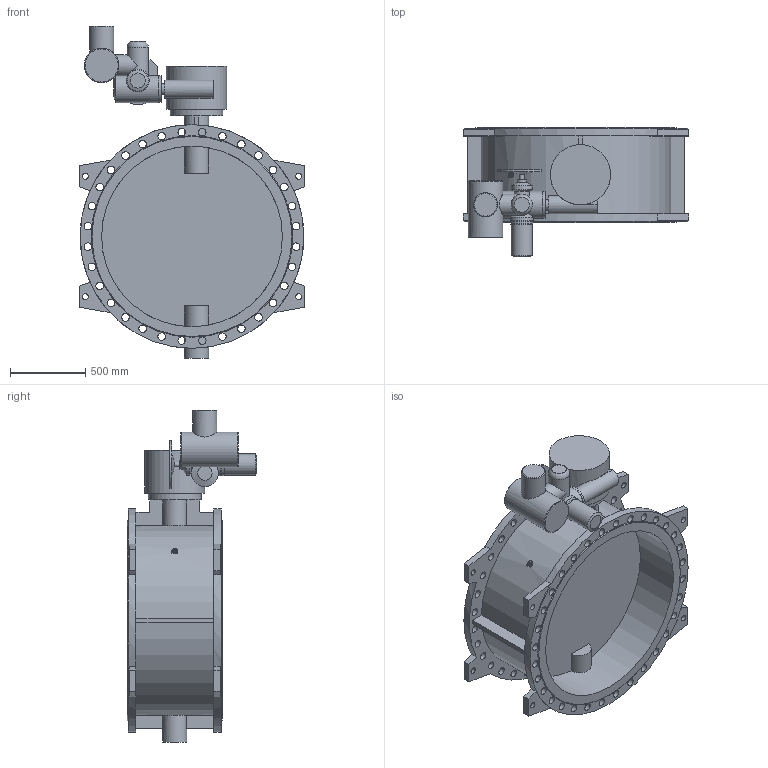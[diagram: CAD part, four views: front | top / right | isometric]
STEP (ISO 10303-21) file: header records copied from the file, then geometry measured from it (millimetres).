
FILE_DESCRIPTION(('STEP AP203'), '1');
FILE_NAME('Çàòâîð 023F.Z DN1200 PN16 + ðåäóêòîð + ÌÒ903.À30 ñ ÁÓ', '', ('UNSPECIFIED'), ('UNSPECIFIED'), 'ASCON STEP Converter 1.6', 'ASCON Math Kernel', '');
FILE_SCHEMA(('CONFIG_CONTROL_DESIGN'));
Length unit declared in the file: millimetre
Bounding box: 1496 x 859 x 2204 mm (x, y, z)
Volume: 317283019 mm3; surface area: 12041837.6 mm2
Topology: 1 solids, 1 shells, 274 faces, 678 edges, 444 vertices
Faces by surface type: cylinder 140, plane 120, cone 13, torus 1
Full cylindrical faces by diameter (mm): 14 x4, 18 x12, 23 x8, 32 x1, 40 x8, 50 x64, 60 x1, 70 x1, 100 x1, 120 x1, 140 x4, 147 x1, 151 x1, 160 x2, 175 x1, 180 x1, 230 x1, 350 x1, 400 x1, 1200 x2, 1485 x2
Entity records: 12236 total; most frequent: CARTESIAN_POINT 3549, DIRECTION 1355, ORIENTED_EDGE 1088, EDGE_LOOP 587, AXIS2_PLACEMENT_3D 578, EDGE_CURVE 544, VERTEX_POINT 443, FACE_BOUND 340
